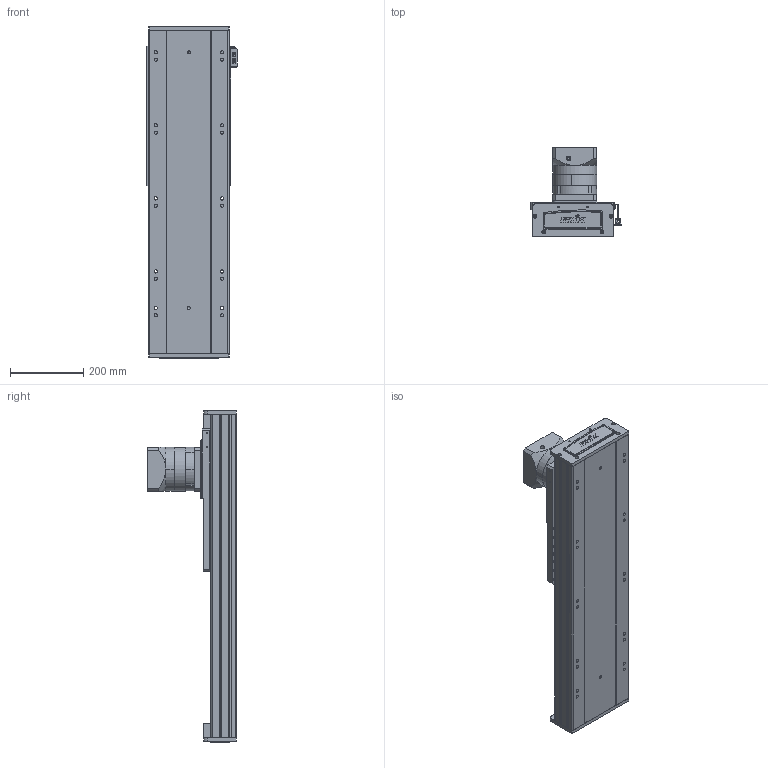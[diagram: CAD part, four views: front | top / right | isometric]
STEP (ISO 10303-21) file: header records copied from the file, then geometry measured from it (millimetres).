
FILE_DESCRIPTION (( 'STEP AP203' ), '1' );
FILE_NAME ('RY220-C-300-UK.SLDASM_0400.step', '2022-08-01T05:58:34', ( '' ), ( '' ), 'SwSTEP 2.0', 'SolidWorks 2016', '' );
FILE_SCHEMA (( 'CONFIG_CONTROL_DESIGN' ));
Length unit declared in the file: millimetre
Products named in the file (10): RY220喘沭俋离覜茼え; 覜茼ん674; RY140直线电机感应器674光电安装座; RY220-齿条模组电机安装板; 滅袉蝶輸ㄗG412隅秶ㄘ; PF115L1-S2-22-58-110-145-M8; RY220-C-300-UK.SLDASM_0400; RY220菁釱MK-300_0400; RY220喘沭綴裔啣; RY220喘沭賑輸
Assembly tree (12 placements, depth 2):
  RY220-C-300-UK.SLDASM_0400
    RY220菁釱MK-300_0400
    RY220喘沭賑輸
    RY220-齿条模组电机安装板
    PF115L1-S2-22-58-110-145-M8
    RY220喘沭綴裔啣  x2
    滅袉蝶輸ㄗG412隅秶ㄘ  x2
    RY140直线电机感应器674光电安装座
    覜茼ん674  x2
    RY220喘沭俋离覜茼え
Bounding box: 247 x 244.5 x 909 mm (x, y, z)
Volume: 9165068.6 mm3; surface area: 1723781.2 mm2
Topology: 18 solids, 26 shells, 1828 faces, 4885 edges, 3143 vertices
Faces by surface type: cylinder 805, plane 751, bspline 162, cone 110
Entity records: 57621 total; most frequent: CARTESIAN_POINT 16019, ORIENTED_EDGE 8450, DIRECTION 8415, EDGE_CURVE 4225, AXIS2_PLACEMENT_3D 3167, VERTEX_POINT 2769, LINE 2081, VECTOR 2081
